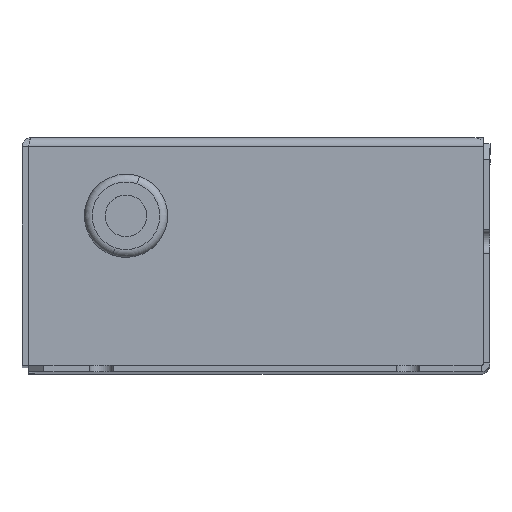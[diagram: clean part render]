
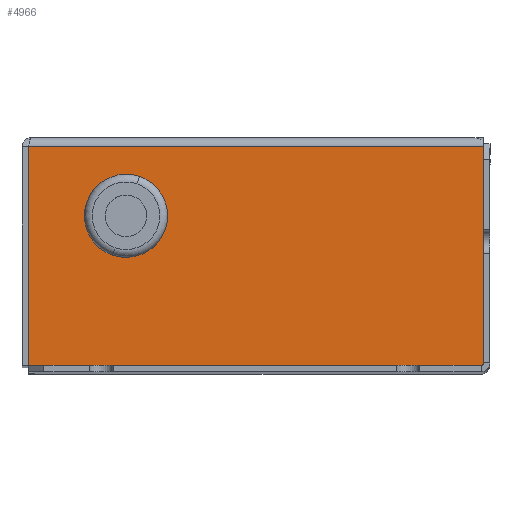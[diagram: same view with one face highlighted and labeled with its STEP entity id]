
A CAD part, top view. The second image highlights one B-rep face of the part: STEP entity #4966.
In plain terms, the highlighted planar face has unit normal (0, 0, 1) as drawn and (0, 0, -1) by its records, which use the part's own axes.
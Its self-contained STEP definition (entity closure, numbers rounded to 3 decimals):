
#147 = VECTOR ( 'NONE', #4246, 1000. ) ;
#215 = CARTESIAN_POINT ( 'NONE',  ( 0., -0.5, -234. ) ) ;
#449 = CARTESIAN_POINT ( 'NONE',  ( 87.529, -0.5, -234. ) ) ;
#557 = ORIENTED_EDGE ( 'NONE', *, *, #10000, .T. ) ;
#851 = CIRCLE ( 'NONE', #4373, 6.25 ) ;
#1267 = VERTEX_POINT ( 'NONE', #6756 ) ;
#1272 = CARTESIAN_POINT ( 'NONE',  ( 68.8, -13.8, -234. ) ) ;
#1607 = DIRECTION ( 'NONE',  ( 0., -1., 0. ) ) ;
#1651 = VERTEX_POINT ( 'NONE', #449 ) ;
#1662 = LINE ( 'NONE', #6971, #2277 ) ;
#1952 = CARTESIAN_POINT ( 'NONE',  ( 0., -0.5, -234. ) ) ;
#2061 = ORIENTED_EDGE ( 'NONE', *, *, #12193, .F. ) ;
#2230 = CARTESIAN_POINT ( 'NONE',  ( 0., 0., -234. ) ) ;
#2277 = VECTOR ( 'NONE', #9056, 1000. ) ;
#2500 = DIRECTION ( 'NONE',  ( 0., 0., 1. ) ) ;
#2668 = CARTESIAN_POINT ( 'NONE',  ( 68.8, -7.55, -234. ) ) ;
#2697 = ORIENTED_EDGE ( 'NONE', *, *, #4141, .T. ) ;
#3126 = EDGE_CURVE ( 'NONE', #1651, #7700, #10713, .T. ) ;
#3234 = DIRECTION ( 'NONE',  ( 0., 1., 0. ) ) ;
#3329 = LINE ( 'NONE', #2230, #10352 ) ;
#3458 = CIRCLE ( 'NONE', #3849, 6.25 ) ;
#3615 = AXIS2_PLACEMENT_3D ( 'NONE', #6503, #2500, #1607 ) ;
#3821 = CARTESIAN_POINT ( 'NONE',  ( 68.8, -13.8, -234. ) ) ;
#3849 = AXIS2_PLACEMENT_3D ( 'NONE', #1272, #11163, #3234 ) ;
#3975 = EDGE_LOOP ( 'NONE', ( #4924, #2697, #8713, #557 ) ) ;
#4141 = EDGE_CURVE ( 'NONE', #1651, #8277, #1662, .T. ) ;
#4233 = DIRECTION ( 'NONE',  ( 0., 1., 0. ) ) ;
#4246 = DIRECTION ( 'NONE',  ( -1., 0., 0. ) ) ;
#4373 = AXIS2_PLACEMENT_3D ( 'NONE', #3821, #7813, #11870 ) ;
#4409 = LINE ( 'NONE', #6159, #7101 ) ;
#4704 = EDGE_CURVE ( 'NONE', #8277, #8897, #4409, .T. ) ;
#4924 = ORIENTED_EDGE ( 'NONE', *, *, #3126, .F. ) ;
#4966 = ADVANCED_FACE ( 'NONE', ( #9916, #7114 ), #12490, .F. ) ;
#6159 = CARTESIAN_POINT ( 'NONE',  ( 88.8, -42.6, -234. ) ) ;
#6503 = CARTESIAN_POINT ( 'NONE',  ( 88.8, 0., -234. ) ) ;
#6756 = CARTESIAN_POINT ( 'NONE',  ( 68.8, -20.05, -234. ) ) ;
#6788 = CARTESIAN_POINT ( 'NONE',  ( 0., -42.6, -234. ) ) ;
#6971 = CARTESIAN_POINT ( 'NONE',  ( 87.529, 0., -234. ) ) ;
#7101 = VECTOR ( 'NONE', #9999, 1000. ) ;
#7114 = FACE_OUTER_BOUND ( 'NONE', #3975, .T. ) ;
#7700 = VERTEX_POINT ( 'NONE', #1952 ) ;
#7813 = DIRECTION ( 'NONE',  ( 0., 0., -1. ) ) ;
#8164 = ORIENTED_EDGE ( 'NONE', *, *, #11736, .F. ) ;
#8277 = VERTEX_POINT ( 'NONE', #9855 ) ;
#8713 = ORIENTED_EDGE ( 'NONE', *, *, #4704, .T. ) ;
#8897 = VERTEX_POINT ( 'NONE', #6788 ) ;
#9056 = DIRECTION ( 'NONE',  ( 0., -1., 0. ) ) ;
#9153 = EDGE_LOOP ( 'NONE', ( #8164, #2061 ) ) ;
#9855 = CARTESIAN_POINT ( 'NONE',  ( 87.529, -42.6, -234. ) ) ;
#9916 = FACE_BOUND ( 'NONE', #9153, .T. ) ;
#9999 = DIRECTION ( 'NONE',  ( -1., 0., 0. ) ) ;
#10000 = EDGE_CURVE ( 'NONE', #8897, #7700, #3329, .T. ) ;
#10352 = VECTOR ( 'NONE', #4233, 1000. ) ;
#10713 = LINE ( 'NONE', #215, #147 ) ;
#11163 = DIRECTION ( 'NONE',  ( 0., 0., -1. ) ) ;
#11736 = EDGE_CURVE ( 'NONE', #12631, #1267, #3458, .T. ) ;
#11870 = DIRECTION ( 'NONE',  ( 0., 1., 0. ) ) ;
#12193 = EDGE_CURVE ( 'NONE', #1267, #12631, #851, .T. ) ;
#12490 = PLANE ( 'NONE',  #3615 ) ;
#12631 = VERTEX_POINT ( 'NONE', #2668 ) ;
